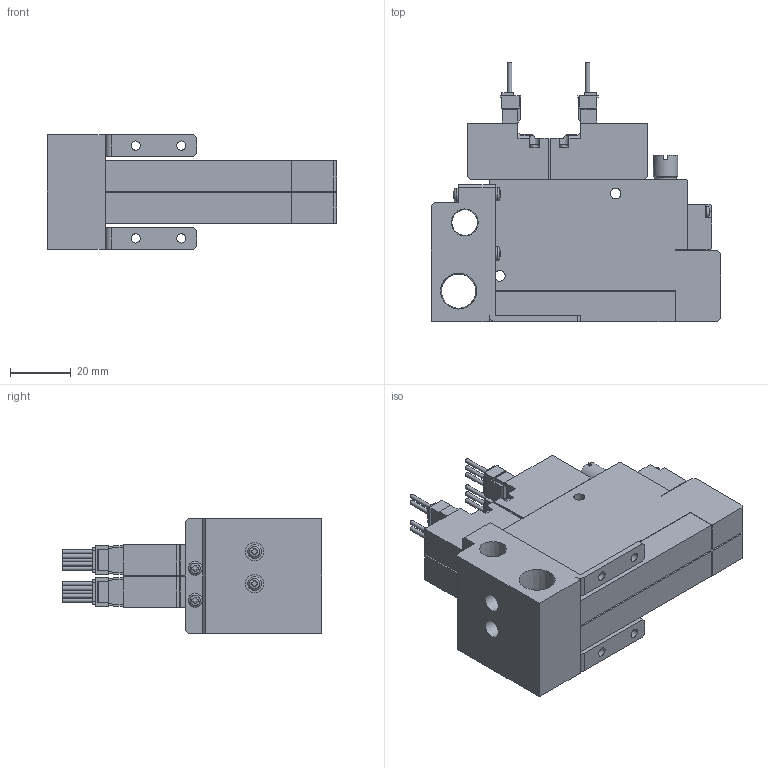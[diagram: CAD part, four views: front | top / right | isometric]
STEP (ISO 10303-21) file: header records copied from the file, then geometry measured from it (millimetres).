
FILE_DESCRIPTION(('STEP AP203'),'1');
FILE_NAME('ZZC5WC202_3D.stp','2024-09-04T09:28:31',(' '),(' '),'Spatial InterOp 3D',' ',' ');
FILE_SCHEMA(('CONFIG_CONTROL_DESIGN'));
Length unit declared in the file: millimetre
Products named in the file (5): BSC1M※※ZZC5WC202; Solenoid valve W; Pressure Sensor ZZ; Unit-C; BaseMC20R
Assembly tree (7 placements, depth 2):
  BSC1M※※ZZC5WC202
    Solenoid valve W  x2
    Pressure Sensor ZZ  x2
    Unit-C  x2
    BaseMC20R
Bounding box: 95 x 85.05 x 37.5 mm (x, y, z)
Volume: 114323.3 mm3; surface area: 40841.4 mm2
Topology: 7 solids, 7 shells, 779 faces, 2085 edges, 1378 vertices
Faces by surface type: plane 583, cylinder 154, cone 18, sphere 12, torus 12
Full cylindrical faces by diameter (mm): 1.4 x10, 2.5 x4, 3 x12, 3.5 x12, 4 x2, 4.134 x4, 4.5 x8, 5.5 x2, 6 x2, 7 x4, 8 x2, 8.422 x1, 11.233 x1
Entity records: 14771 total; most frequent: CARTESIAN_POINT 3100, DIRECTION 2315, ORIENTED_EDGE 2284, EDGE_CURVE 1142, LINE 831, VECTOR 831, VERTEX_POINT 797, AXIS2_PLACEMENT_3D 742
